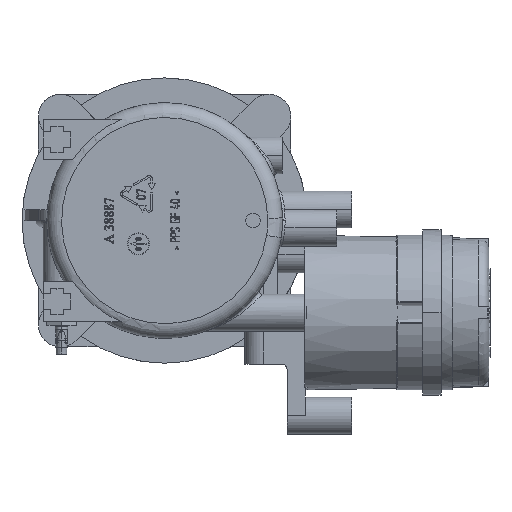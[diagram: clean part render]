
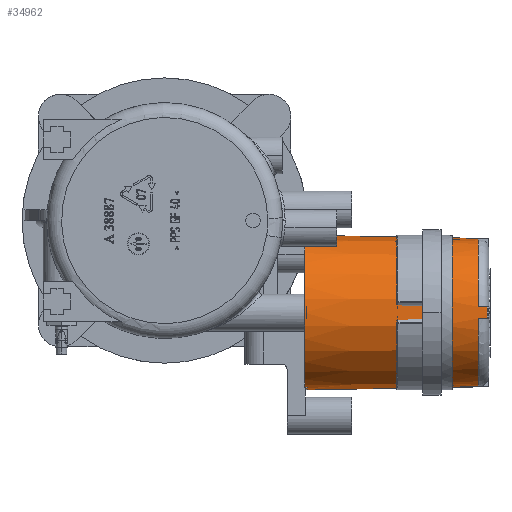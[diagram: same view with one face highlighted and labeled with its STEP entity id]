
A CAD part, left-side view. The second image highlights one B-rep face of the part: STEP entity #34962.
In plain terms, the highlighted conical face has half-angle 1 degrees and reference radius 20.568 mm.
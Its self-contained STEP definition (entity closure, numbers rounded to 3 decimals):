
#28038=DIRECTION('',(0.,-1.,-0.017));
#28039=VECTOR('',#28038,49.516);
#28040=CARTESIAN_POINT('',(0.,24.509,-20.136));
#28041=LINE('',#28040,#28039);
#28042=CARTESIAN_POINT('',(-1.585,22.052,-20.116));
#28043=CARTESIAN_POINT('',(-1.585,22.325,-20.112));
#28044=CARTESIAN_POINT('',(-1.585,22.871,-20.102));
#28045=CARTESIAN_POINT('',(-1.585,23.69,-20.088));
#28046=CARTESIAN_POINT('',(-1.585,24.236,-20.078));
#28047=CARTESIAN_POINT('',(-1.585,24.509,-20.073));
#28049=CARTESIAN_POINT('',(-20.073,24.509,-1.585));
#28050=CARTESIAN_POINT('',(-20.078,24.236,-1.585));
#28051=CARTESIAN_POINT('',(-20.088,23.69,-1.585));
#28052=CARTESIAN_POINT('',(-20.102,22.871,-1.585));
#28053=CARTESIAN_POINT('',(-20.112,22.325,-1.585));
#28054=CARTESIAN_POINT('',(-20.116,22.052,-1.585));
#28056=CARTESIAN_POINT('',(-20.116,22.052,1.585));
#28057=CARTESIAN_POINT('',(-20.112,22.325,1.585));
#28058=CARTESIAN_POINT('',(-20.102,22.871,1.585));
#28059=CARTESIAN_POINT('',(-20.088,23.69,1.585));
#28060=CARTESIAN_POINT('',(-20.078,24.236,1.585));
#28061=CARTESIAN_POINT('',(-20.073,24.509,1.585));
#28063=CARTESIAN_POINT('',(-1.585,24.509,20.073));
#28064=CARTESIAN_POINT('',(-1.585,24.236,20.078));
#28065=CARTESIAN_POINT('',(-1.585,23.69,20.088));
#28066=CARTESIAN_POINT('',(-1.585,22.871,20.102));
#28067=CARTESIAN_POINT('',(-1.585,22.325,20.112));
#28068=CARTESIAN_POINT('',(-1.585,22.052,20.116));
#28070=DIRECTION('',(0.,-1.,0.017));
#28071=VECTOR('',#28070,49.516);
#28072=CARTESIAN_POINT('',(0.,24.509,20.136));
#28073=LINE('',#28072,#28071);
#28079=CARTESIAN_POINT('',(0.,-25.,0.));
#28080=DIRECTION('',(0.,-1.,0.));
#28081=DIRECTION('',(0.,0.,1.));
#28082=AXIS2_PLACEMENT_3D('',#28079,#28080,#28081);
#28136=CARTESIAN_POINT('',(-1.585,24.509,20.073));
#28159=CARTESIAN_POINT('',(0.,24.509,0.));
#28160=DIRECTION('',(0.,1.,0.));
#28161=DIRECTION('',(-0.079,0.,0.997));
#28162=AXIS2_PLACEMENT_3D('',#28159,#28160,#28161);
#28335=CARTESIAN_POINT('',(-1.585,24.509,-20.073));
#28351=CARTESIAN_POINT('',(0.,24.509,0.));
#28352=DIRECTION('',(0.,1.,0.));
#28353=DIRECTION('',(0.,0.,-1.));
#28354=AXIS2_PLACEMENT_3D('',#28351,#28352,#28353);
#28365=CARTESIAN_POINT('',(-20.116,22.052,-1.585));
#28388=CARTESIAN_POINT('',(0.,22.052,0.));
#28389=DIRECTION('',(0.,1.,0.));
#28390=DIRECTION('',(-0.079,0.,-0.997));
#28391=AXIS2_PLACEMENT_3D('',#28388,#28389,#28390);
#28414=CARTESIAN_POINT('',(-1.585,22.052,-20.116));
#28434=CARTESIAN_POINT('',(-20.073,24.509,-1.585));
#28436=CARTESIAN_POINT('',(-20.073,24.509,1.585));
#28452=CARTESIAN_POINT('',(0.,24.509,0.));
#28453=DIRECTION('',(0.,1.,0.));
#28454=DIRECTION('',(-0.997,0.,-0.079));
#28455=AXIS2_PLACEMENT_3D('',#28452,#28453,#28454);
#28461=CARTESIAN_POINT('',(-1.585,22.052,20.116));
#28484=CARTESIAN_POINT('',(0.,22.052,0.));
#28485=DIRECTION('',(0.,1.,0.));
#28486=DIRECTION('',(-0.997,0.,0.079));
#28487=AXIS2_PLACEMENT_3D('',#28484,#28485,#28486);
#28510=CARTESIAN_POINT('',(-20.116,22.052,1.585));
#33039=VERTEX_POINT('',#28434);
#33040=VERTEX_POINT('',#28436);
#33077=VERTEX_POINT('',#28365);
#33081=VERTEX_POINT('',#28414);
#33585=VERTEX_POINT('',#28510);
#33628=VERTEX_POINT('',#28136);
#33629=VERTEX_POINT('',#28461);
#33678=VERTEX_POINT('',#28335);
#34010=CARTESIAN_POINT('',(0.,24.509,20.136));
#34011=CARTESIAN_POINT('',(0.,-25.,21.));
#34012=VERTEX_POINT('',#34010);
#34013=VERTEX_POINT('',#34011);
#34014=CARTESIAN_POINT('',(0.,24.509,-20.136));
#34015=CARTESIAN_POINT('',(0.,-25.,-21.));
#34016=VERTEX_POINT('',#34014);
#34017=VERTEX_POINT('',#34015);
#34932=CARTESIAN_POINT('',(0.,-0.246,0.));
#34933=DIRECTION('',(0.,-1.,0.));
#34934=DIRECTION('',(0.,0.,-1.));
#34935=AXIS2_PLACEMENT_3D('',#34932,#34933,#34934);
#34936=CONICAL_SURFACE('',#34935,20.568,1.);
#34938=ORIENTED_EDGE('',*,*,#34937,.T.);
#34940=ORIENTED_EDGE('',*,*,#34939,.F.);
#34942=ORIENTED_EDGE('',*,*,#34941,.T.);
#34944=ORIENTED_EDGE('',*,*,#34943,.F.);
#34946=ORIENTED_EDGE('',*,*,#34945,.T.);
#34948=ORIENTED_EDGE('',*,*,#34947,.F.);
#34950=ORIENTED_EDGE('',*,*,#34949,.T.);
#34952=ORIENTED_EDGE('',*,*,#34951,.F.);
#34954=ORIENTED_EDGE('',*,*,#34953,.T.);
#34955=ORIENTED_EDGE('',*,*,#34922,.F.);
#34957=ORIENTED_EDGE('',*,*,#34956,.T.);
#34959=ORIENTED_EDGE('',*,*,#34958,.T.);
#34960=EDGE_LOOP('',(#34938,#34940,#34942,#34944,#34946,#34948,#34950,#34952,
#34954,#34955,#34957,#34959));
#34961=FACE_OUTER_BOUND('',#34960,.F.);
#34962=ADVANCED_FACE('',(#34961),#34936,.T.);
#28048=B_SPLINE_CURVE_WITH_KNOTS('',3,(#28042,#28043,#28044,#28045,#28046,
#28047),.UNSPECIFIED.,.F.,.F.,(4,1,1,4),(0.,0.333,
0.667,1.),.UNSPECIFIED.);
#28055=B_SPLINE_CURVE_WITH_KNOTS('',3,(#28049,#28050,#28051,#28052,#28053,
#28054),.UNSPECIFIED.,.F.,.F.,(4,1,1,4),(0.,0.333,
0.667,1.),.UNSPECIFIED.);
#28062=B_SPLINE_CURVE_WITH_KNOTS('',3,(#28056,#28057,#28058,#28059,#28060,
#28061),.UNSPECIFIED.,.F.,.F.,(4,1,1,4),(0.,0.333,
0.667,1.),.UNSPECIFIED.);
#28069=B_SPLINE_CURVE_WITH_KNOTS('',3,(#28063,#28064,#28065,#28066,#28067,
#28068),.UNSPECIFIED.,.F.,.F.,(4,1,1,4),(0.,0.333,
0.667,1.),.UNSPECIFIED.);
#28083=CIRCLE('',#28082,21.);
#28163=CIRCLE('',#28162,20.136);
#28355=CIRCLE('',#28354,20.136);
#28392=CIRCLE('',#28391,20.179);
#28456=CIRCLE('',#28455,20.136);
#28488=CIRCLE('',#28487,20.179);
#34922=EDGE_CURVE('',#33628,#33629,#28069,.T.);
#34937=EDGE_CURVE('',#34013,#34017,#28083,.T.);
#34939=EDGE_CURVE('',#34016,#34017,#28041,.T.);
#34941=EDGE_CURVE('',#34016,#33678,#28355,.T.);
#34943=EDGE_CURVE('',#33081,#33678,#28048,.T.);
#34945=EDGE_CURVE('',#33081,#33077,#28392,.T.);
#34947=EDGE_CURVE('',#33039,#33077,#28055,.T.);
#34949=EDGE_CURVE('',#33039,#33040,#28456,.T.);
#34951=EDGE_CURVE('',#33585,#33040,#28062,.T.);
#34953=EDGE_CURVE('',#33585,#33629,#28488,.T.);
#34956=EDGE_CURVE('',#33628,#34012,#28163,.T.);
#34958=EDGE_CURVE('',#34012,#34013,#28073,.T.);
